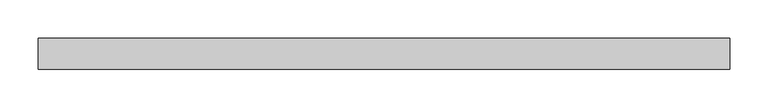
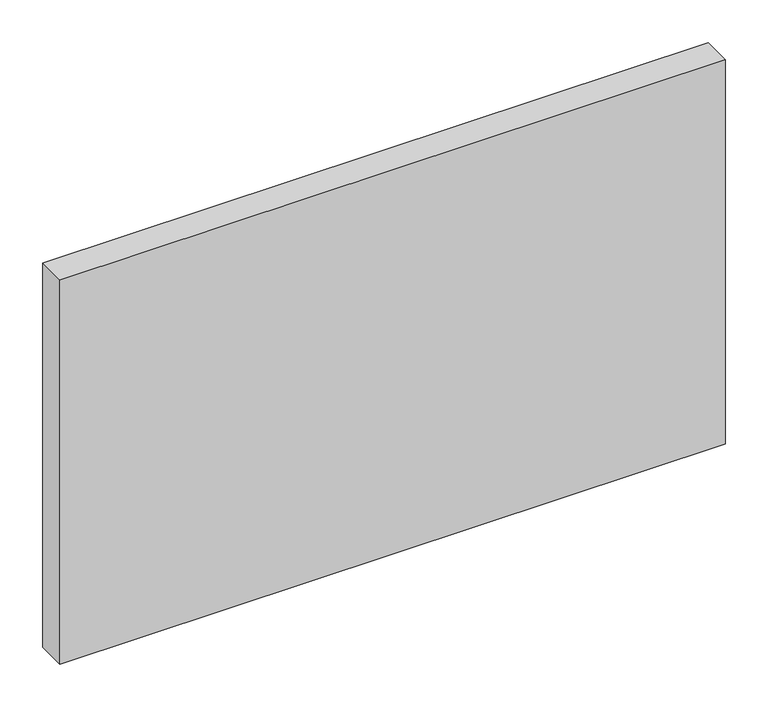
"""IFC4 building model written with IfcOpenShell, lengths in millimetres: plate geometry, Panneau système : Vitré."""

from ifc_helpers import new_model, si_unit, origin, origin_with_axes, place, context, project, spatial, polyline, outline, extrude, source, transform, mapped, element, save


def plate_add5992d(model_context):
    return source(origin(), model_context, "Body", "SweptSolid", [
        extrude(outline(polyline([(450.0, 5.0), (-450.0, 5.0), (-450.0, 45.0), (450.0, 45.0), (450.0, 5.0)])), origin_with_axes(), (0.0, 0.0, 1.0), 550.0),
    ])


if __name__ == "__main__":
    model = new_model("IFC4")
    model_context = context("Model", 3, world=origin())
    ifc_project = project(units=[si_unit("LENGTHUNIT", "METRE", prefix="MILLI")], contexts=[model_context])
    site = spatial("IfcSite", under=ifc_project)
    building = spatial("IfcBuilding", under=site)
    placement = place(None, origin())
    plate_shape = plate_add5992d(model_context)
    element("IfcPlate", 1, ObjectType="Panneau système : Vitré", at=placement, inside=building, context=model_context, shape_type="MappedRepresentation", body=[
        mapped(plate_shape, transform((0.0, 0.0, 0.0), x_axis=(1.0, 0.0, 0.0), y_axis=(0.0, 1.0, 0.0), z_axis=(0.0, 0.0, 1.0))),
    ])
    save(model, "model.ifc")
